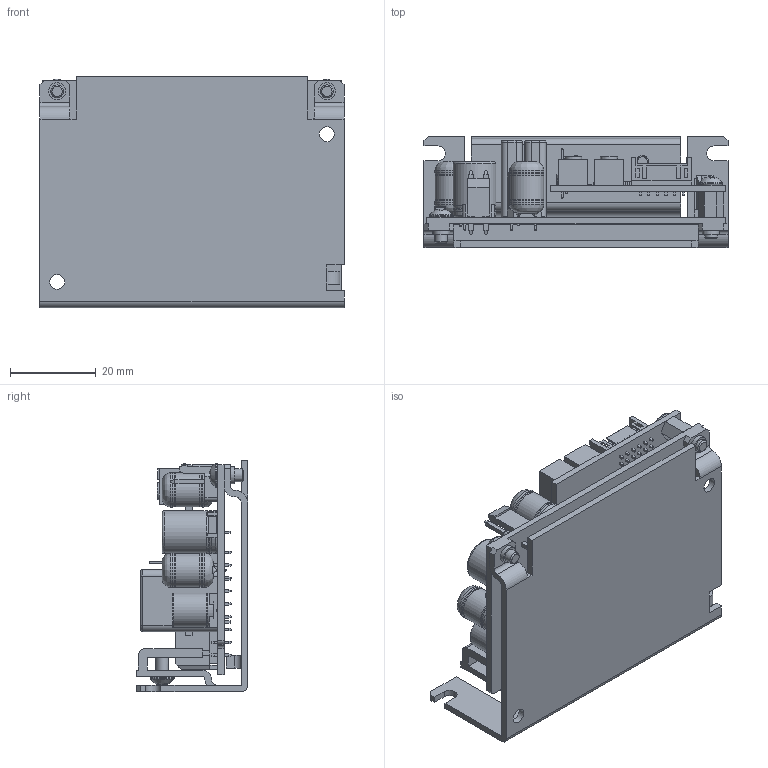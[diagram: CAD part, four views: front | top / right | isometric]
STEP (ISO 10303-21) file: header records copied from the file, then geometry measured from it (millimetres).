
FILE_DESCRIPTION((''),'2;1');
FILE_NAME('C:\Users\namhun\Desktop\XFD.stp','2014-06-19T15:53:41',('namhun'),(''),'Autodesk Inventor 2013','Autodesk Inventor 2013','');
FILE_SCHEMA(('AUTOMOTIVE_DESIGN { 1 0 10303 214 1 1 1 1 }'));
Length unit declared in the file: millimetre
Products named in the file (1): 부품82
Bounding box: 71 x 26 x 54 mm (x, y, z)
Volume: 25166.1 mm3; surface area: 29999.6 mm2
Topology: 2 solids, 3 shells, 1932 faces, 5185 edges, 3286 vertices
Faces by surface type: plane 1551, cylinder 300, torus 36, bspline 18, sphere 17, cone 10
Full cylindrical faces by diameter (mm): 0.5 x4, 1 x1, 3 x10, 3.3 x3, 3.5 x2, 4 x5, 5.6 x5, 7 x1, 7.8 x2, 7.9 x2, 8 x8, 10 x2
Entity records: 61728 total; most frequent: CARTESIAN_POINT 11648, ORIENTED_EDGE 10088, DIRECTION 9452, EDGE_CURVE 5044, VECTOR 4292, LINE 4292, VERTEX_POINT 3234, AXIS2_PLACEMENT_3D 2580
